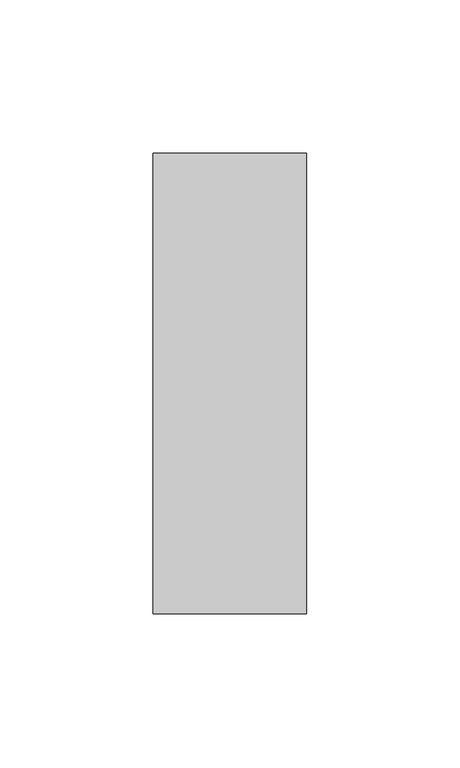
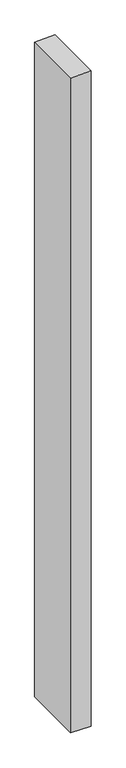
"""IFC4 building model written with IfcOpenShell, lengths in millimetres: member geometry, Прямоугольный импост : 50 x 150 мм."""

from ifc_helpers import new_model, si_unit, origin, place, context, project, spatial, faceted_brep, source, transform, mapped, element, save


def member_0da6fe99(model_context):
    return source(origin(), model_context, "Body", "Brep", [
        faceted_brep([(-25.0, 75.0, -0.2125734), (25.0, 75.0, 1.2796013), (25.0, 75.0, -1683.7535707), (-25.0, 75.0, -1682.4075349), (-25.0, -75.0, -1.2796013), (-25.0, -75.0, -1683.5445441), (25.0, -75.0, 0.2125734), (25.0, -75.0, -1684.8905799)], [[[0, 1, 2, 3]], [[4, 0, 3, 5]], [[6, 4, 5, 7]], [[1, 6, 7, 2]], [[1, 0, 4, 6]], [[2, 7, 5, 3]]]),
    ])


if __name__ == "__main__":
    model = new_model("IFC4")
    model_context = context("Model", 3, world=origin())
    ifc_project = project(units=[si_unit("LENGTHUNIT", "METRE", prefix="MILLI")], contexts=[model_context])
    site = spatial("IfcSite", under=ifc_project)
    building = spatial("IfcBuilding", under=site)
    placement = place(None, origin())
    member_shape = member_0da6fe99(model_context)
    element("IfcMember", 1, ObjectType="Прямоугольный импост : 50 x 150 мм", at=placement, inside=building, context=model_context, shape_type="MappedRepresentation", body=[
        mapped(member_shape, transform((0.0, 0.0, 0.0), x_axis=(1.0, 0.0, 0.0), y_axis=(0.0, 1.0, 0.0), z_axis=(0.0, 0.0, 1.0))),
    ])
    save(model, "model.ifc")
